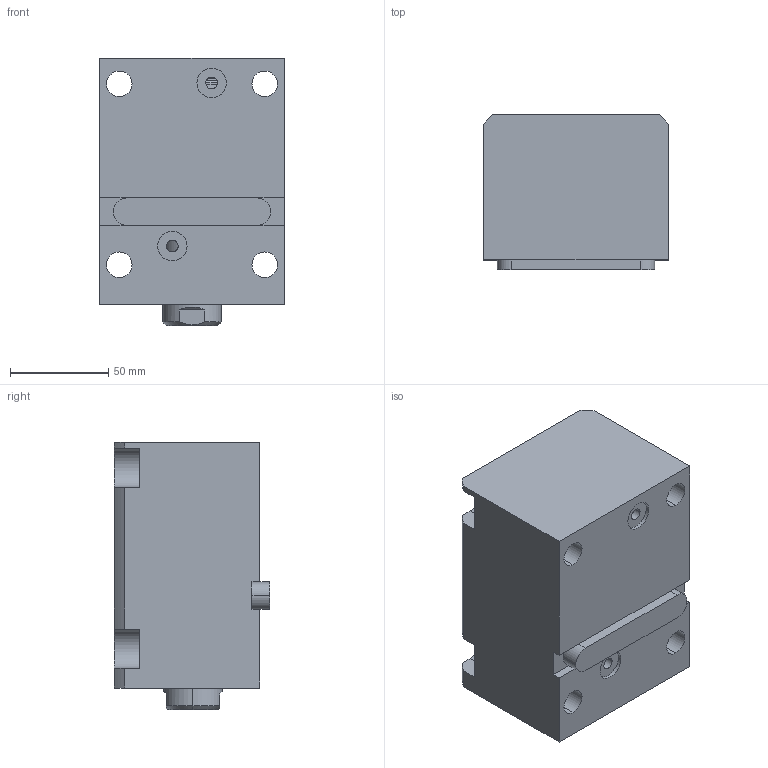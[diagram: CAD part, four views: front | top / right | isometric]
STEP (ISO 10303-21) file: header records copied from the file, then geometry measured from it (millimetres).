
FILE_DESCRIPTION (( 'STEP AP203' ), '1' );
FILE_NAME ('CHTB-LAM50-65N.STEP', '2018-05-23T10:47:09', ( '' ), ( '' ), 'SwSTEP 2.0', 'SolidWorks 2015', '' );
FILE_SCHEMA (( 'CONFIG_CONTROL_DESIGN' ));
Length unit declared in the file: millimetre
Products named in the file (4): CHTM-SDMA50QG; 掛极LAM50-65N; CHTB-LAM50-65N; 活塞杆LAM50-65N
Assembly tree (3 placements, depth 2):
  CHTB-LAM50-65N
    掛极LAM50-65N
    CHTM-SDMA50QG
    活塞杆LAM50-65N
Bounding box: 94 x 79 x 136 mm (x, y, z)
Volume: 732838.9 mm3; surface area: 120951.2 mm2
Topology: 3 solids, 3 shells, 192 faces, 524 edges, 347 vertices
Faces by surface type: cylinder 96, plane 51, torus 16, cone 15, bspline 14
Entity records: 11011 total; most frequent: CARTESIAN_POINT 5956, ORIENTED_EDGE 1036, DIRECTION 908, EDGE_CURVE 518, AXIS2_PLACEMENT_3D 356, VERTEX_POINT 347, EDGE_LOOP 221, LINE 196
